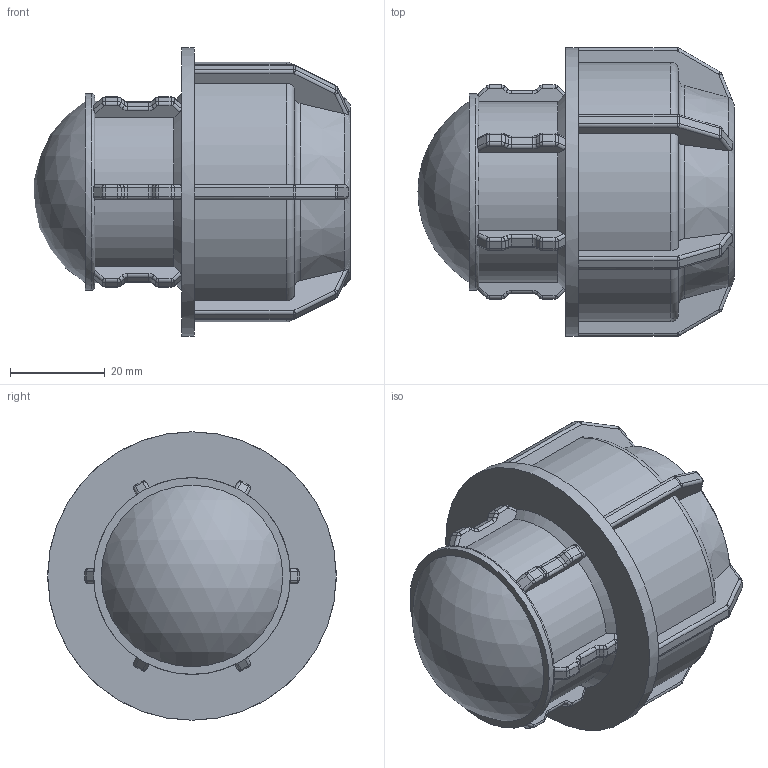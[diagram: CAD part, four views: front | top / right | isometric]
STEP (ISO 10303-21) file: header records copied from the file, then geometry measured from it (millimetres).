
FILE_DESCRIPTION(/* description */ ('PLASSON L.14 END PLUG (SILVER) 32'),/* implementation_level */ '2;1');
FILE_NAME(/* name */ 'C:\Dropbox\KIMPROJECTS-Inventor\99-16-3568-Processing\Silver+MF ISRAEL\141200\141200032.ipt.stp',/* time_stamp */ '2018-04-09T13:04:41+03:00',/* author */ ('KIM'),/* organization */ (''),/* preprocessor_version */ 'ST-DEVELOPER v15.6',/* originating_system */ 'Autodesk Inventor 2015',/* authorisation */ '');
FILE_SCHEMA (('AUTOMOTIVE_DESIGN { 1 0 10303 214 3 1 1 }'));
Length unit declared in the file: millimetre
Products named in the file (1): 141200032
Bounding box: 66.85 x 61 x 61 mm (x, y, z)
Volume: 61459 mm3; surface area: 21919.4 mm2
Topology: 1 solids, 1 shells, 466 faces, 1148 edges, 682 vertices
Faces by surface type: cylinder 184, plane 157, bspline 72, torus 38, cone 13, sphere 2
Full cylindrical faces by diameter (mm): 32 x2, 41.6 x1, 61 x1
Entity records: 14384 total; most frequent: CARTESIAN_POINT 3765, DIRECTION 2288, ORIENTED_EDGE 2240, EDGE_CURVE 1120, AXIS2_PLACEMENT_3D 919, VERTEX_POINT 670, CIRCLE 502, EDGE_LOOP 476
